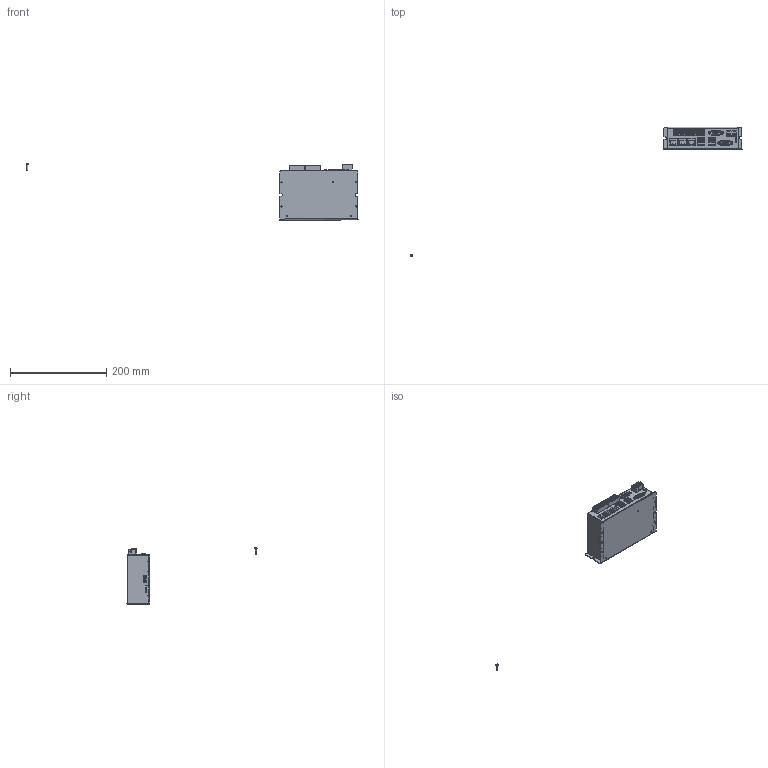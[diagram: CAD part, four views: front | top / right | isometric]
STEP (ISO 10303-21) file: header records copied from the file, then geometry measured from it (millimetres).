
FILE_DESCRIPTION(/* description */ (''),/* implementation_level */ '2;1');
FILE_NAME(/* name */ 'XPLC516E模型.step',/* time_stamp */ '2020-09-06T10:15:18+08:00',/* author */ (''),/* organization */ (''),/* preprocessor_version */ 'ST-DEVELOPER v16',/* originating_system */ 'SIEMENS PLM Software NX 10.0',/* authorisation */ '');
FILE_SCHEMA (('AUTOMOTIVE_DESIGN { 1 0 10303 214 3 1 1 1 }'));
Length unit declared in the file: millimetre
Products named in the file (1): VPLC516EUG黑色
Bounding box: 688.5 x 269.65 x 117.07 mm (x, y, z)
Volume: 90030.4 mm3; surface area: 121790.7 mm2
Topology: 22 solids, 22 shells, 1831 faces, 4572 edges, 2947 vertices
Faces by surface type: plane 1383, cylinder 363, sphere 27, bspline 24, torus 19, extrusion 12, revolution 3
Full cylindrical faces by diameter (mm): 0.85 x15, 1 x9, 2.1 x4, 2.2 x3, 2.5 x4, 2.8 x34, 3 x2, 3.048 x5, 3.2 x3, 3.3 x3, 5 x1
Entity records: 58498 total; most frequent: CARTESIAN_POINT 10403, ORIENTED_EDGE 8784, DIRECTION 8778, EDGE_CURVE 4392, VECTOR 3517, LINE 3505, VERTEX_POINT 2908, AXIS2_PLACEMENT_3D 2629
